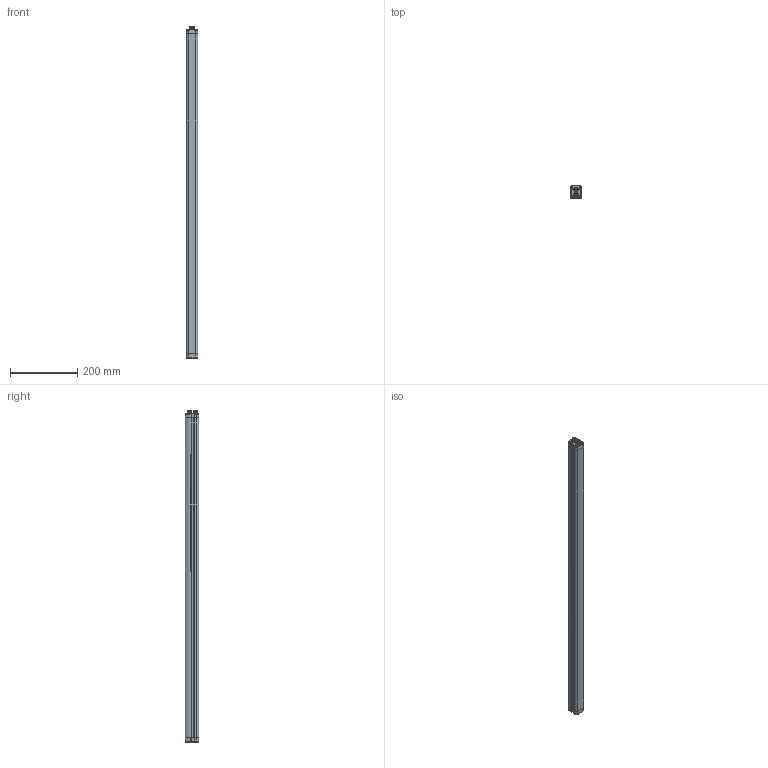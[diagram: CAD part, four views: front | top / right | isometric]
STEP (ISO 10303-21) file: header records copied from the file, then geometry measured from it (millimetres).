
FILE_DESCRIPTION(/* description */ (''),/* implementation_level */ '2;1');
FILE_NAME(/* name */ 'AP021404_01-DSD-0978 DS2-05-07-090 _RX_.stp',/* time_stamp */ '2022-04-07T16:35:37+02:00',/* author */ (''),/* organization */ (''),/* preprocessor_version */ 'ST-DEVELOPER v16.7',/* originating_system */ 'SIEMENS PLM Software NX 1946',/* authorisation */ '');
FILE_SCHEMA (('AUTOMOTIVE_DESIGN { 1 0 10303 214 3 1 1 1 }'));
Length unit declared in the file: millimetre
Products named in the file (1): FGut1114C1CAyu6l
Bounding box: 35 x 40 x 991 mm (x, y, z)
Volume: 1194294 mm3; surface area: 189808.9 mm2
Topology: 2 solids, 5 shells, 613 faces, 1647 edges, 1071 vertices
Faces by surface type: plane 223, cylinder 178, bspline 134, cone 60, torus 18
Full cylindrical faces by diameter (mm): 0.8 x8, 1 x4, 3.5 x4, 5 x8, 8.3 x1, 8.45 x1, 10.45 x1, 10.5 x1, 10.55 x2, 12 x14, 14 x2, 14.5 x2
Entity records: 29078 total; most frequent: CARTESIAN_POINT 12452, ORIENTED_EDGE 3182, DIRECTION 2030, EDGE_CURVE 1591, VERTEX_POINT 1063, AXIS2_PLACEMENT_3D 829, B_SPLINE_CURVE_WITH_KNOTS 741, EDGE_LOOP 684
